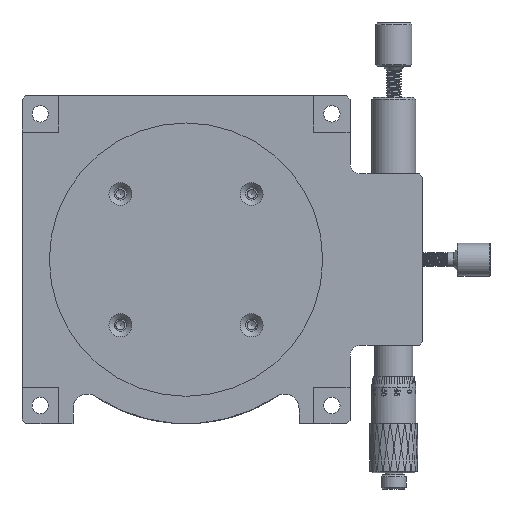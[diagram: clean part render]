
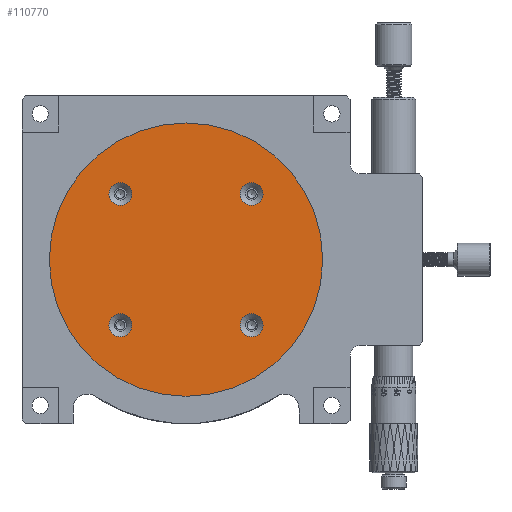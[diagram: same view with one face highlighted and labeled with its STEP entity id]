
A CAD part, front view. The second image highlights one B-rep face of the part: STEP entity #110770.
In plain terms, the highlighted planar face has unit normal (0, -1, 0).
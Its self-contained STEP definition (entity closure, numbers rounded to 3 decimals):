
#1094 = EDGE_LOOP ( 'NONE', ( #121402 ) ) ;
#2201 = EDGE_LOOP ( 'NONE', ( #90995 ) ) ;
#4684 = DIRECTION ( 'NONE',  ( 0., -1., 0. ) ) ;
#7970 = CIRCLE ( 'NONE', #85885, 3.15 ) ;
#8514 = CARTESIAN_POINT ( 'NONE',  ( 63., 0.4, 63. ) ) ;
#9679 = DIRECTION ( 'NONE',  ( 0., 0., 1. ) ) ;
#11833 = VERTEX_POINT ( 'NONE', #23239 ) ;
#15754 = CIRCLE ( 'NONE', #70334, 3.15 ) ;
#19561 = EDGE_CURVE ( 'NONE', #89263, #89263, #101065, .T. ) ;
#20853 = CIRCLE ( 'NONE', #96170, 3.15 ) ;
#21520 = EDGE_CURVE ( 'NONE', #46063, #46063, #20853, .T. ) ;
#21897 = CARTESIAN_POINT ( 'NONE',  ( 27., 0.4, 63. ) ) ;
#23239 = CARTESIAN_POINT ( 'NONE',  ( 63., 0.4, 30.15 ) ) ;
#23753 = EDGE_LOOP ( 'NONE', ( #34139 ) ) ;
#30927 = AXIS2_PLACEMENT_3D ( 'NONE', #126353, #56920, #102710 ) ;
#34139 = ORIENTED_EDGE ( 'NONE', *, *, #78107, .F. ) ;
#37935 = FACE_BOUND ( 'NONE', #23753, .T. ) ;
#38426 = AXIS2_PLACEMENT_3D ( 'NONE', #75312, #49322, #38735 ) ;
#38735 = DIRECTION ( 'NONE',  ( 0., 0., -1. ) ) ;
#42945 = AXIS2_PLACEMENT_3D ( 'NONE', #21897, #71498, #9679 ) ;
#46063 = VERTEX_POINT ( 'NONE', #145275 ) ;
#48028 = CARTESIAN_POINT ( 'NONE',  ( 63., 0.4, 27. ) ) ;
#49322 = DIRECTION ( 'NONE',  ( 0., 1., 0. ) ) ;
#53279 = CIRCLE ( 'NONE', #42945, 3.15 ) ;
#56920 = DIRECTION ( 'NONE',  ( 0., 1., 0. ) ) ;
#67308 = DIRECTION ( 'NONE',  ( 0., 0., 1. ) ) ;
#70334 = AXIS2_PLACEMENT_3D ( 'NONE', #8514, #4684, #67308 ) ;
#71498 = DIRECTION ( 'NONE',  ( 0., -1., 0. ) ) ;
#72299 = ORIENTED_EDGE ( 'NONE', *, *, #19561, .F. ) ;
#74510 = FACE_OUTER_BOUND ( 'NONE', #128779, .T. ) ;
#75312 = CARTESIAN_POINT ( 'NONE',  ( 45., 0.4, 45. ) ) ;
#78107 = EDGE_CURVE ( 'NONE', #122448, #122448, #15754, .T. ) ;
#78382 = EDGE_CURVE ( 'NONE', #11833, #11833, #7970, .T. ) ;
#81038 = CARTESIAN_POINT ( 'NONE',  ( 45., 0.4, 7.5 ) ) ;
#85885 = AXIS2_PLACEMENT_3D ( 'NONE', #48028, #136654, #147251 ) ;
#89263 = VERTEX_POINT ( 'NONE', #81038 ) ;
#90995 = ORIENTED_EDGE ( 'NONE', *, *, #78382, .F. ) ;
#94675 = VERTEX_POINT ( 'NONE', #144280 ) ;
#96170 = AXIS2_PLACEMENT_3D ( 'NONE', #112855, #160055, #98206 ) ;
#98206 = DIRECTION ( 'NONE',  ( 0., 0., 1. ) ) ;
#101065 = CIRCLE ( 'NONE', #30927, 37.5 ) ;
#101317 = FACE_BOUND ( 'NONE', #2201, .T. ) ;
#102710 = DIRECTION ( 'NONE',  ( 0., 0., -1. ) ) ;
#108739 = FACE_BOUND ( 'NONE', #155575, .T. ) ;
#110770 = ADVANCED_FACE ( 'NONE', ( #108739, #111140, #37935, #74510, #101317 ), #137145, .F. ) ;
#111140 = FACE_BOUND ( 'NONE', #1094, .T. ) ;
#112855 = CARTESIAN_POINT ( 'NONE',  ( 27., 0.4, 27. ) ) ;
#121402 = ORIENTED_EDGE ( 'NONE', *, *, #132072, .F. ) ;
#122448 = VERTEX_POINT ( 'NONE', #123260 ) ;
#123260 = CARTESIAN_POINT ( 'NONE',  ( 63., 0.4, 66.15 ) ) ;
#126353 = CARTESIAN_POINT ( 'NONE',  ( 45., 0.4, 45. ) ) ;
#128779 = EDGE_LOOP ( 'NONE', ( #72299 ) ) ;
#132072 = EDGE_CURVE ( 'NONE', #94675, #94675, #53279, .T. ) ;
#136654 = DIRECTION ( 'NONE',  ( 0., -1., 0. ) ) ;
#137145 = PLANE ( 'NONE',  #38426 ) ;
#137901 = ORIENTED_EDGE ( 'NONE', *, *, #21520, .F. ) ;
#144280 = CARTESIAN_POINT ( 'NONE',  ( 27., 0.4, 66.15 ) ) ;
#145275 = CARTESIAN_POINT ( 'NONE',  ( 27., 0.4, 30.15 ) ) ;
#147251 = DIRECTION ( 'NONE',  ( 0., 0., 1. ) ) ;
#155575 = EDGE_LOOP ( 'NONE', ( #137901 ) ) ;
#160055 = DIRECTION ( 'NONE',  ( 0., -1., 0. ) ) ;
